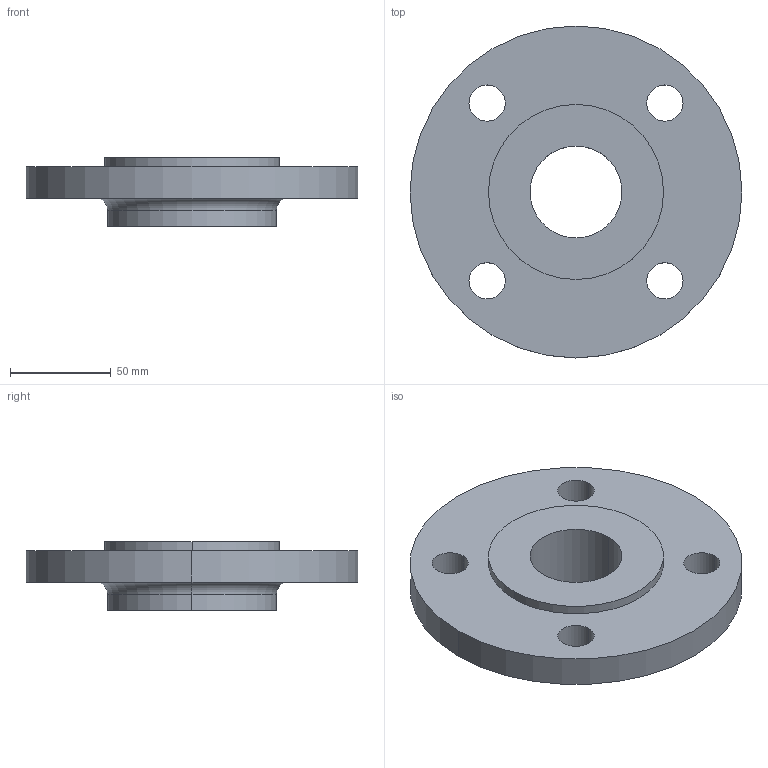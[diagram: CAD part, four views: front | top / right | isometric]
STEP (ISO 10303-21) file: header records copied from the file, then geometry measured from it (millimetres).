
FILE_DESCRIPTION (( 'STEP AP214' ), '1' );
FILE_NAME ('PN40 DN50 Type 13 - Type E Face.STEP', '2018-12-30T04:31:01', ( '' ), ( '' ), 'SwSTEP 2.0', 'SolidWorks 2019', '' );
FILE_SCHEMA (( 'AUTOMOTIVE_DESIGN' ));
Length unit declared in the file: millimetre
Products named in the file (1): PN40 DN50 Type 13 - Type E Face
Bounding box: 165 x 165 x 34 mm (x, y, z)
Volume: 366393.9 mm3; surface area: 58132.6 mm2
Topology: 1 solids, 1 shells, 22 faces, 52 edges, 34 vertices
Faces by surface type: cylinder 16, plane 4, torus 2
Entity records: 710 total; most frequent: DIRECTION 134, CARTESIAN_POINT 109, ORIENTED_EDGE 104, AXIS2_PLACEMENT_3D 59, EDGE_CURVE 52, CIRCLE 36, VERTEX_POINT 34, EDGE_LOOP 34
